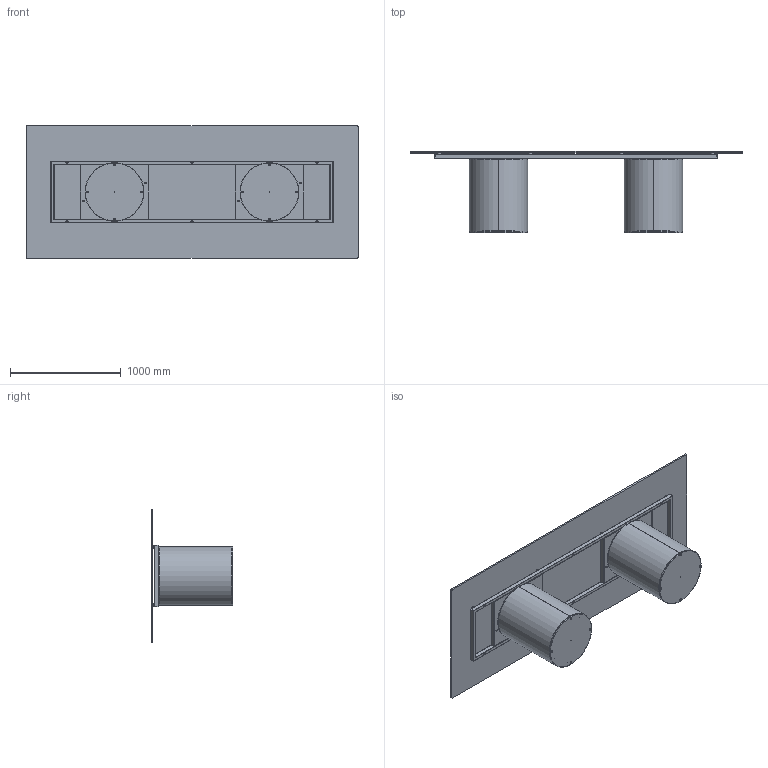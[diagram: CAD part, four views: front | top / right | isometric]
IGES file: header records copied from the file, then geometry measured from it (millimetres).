
Start section: SolidWorks IGES file using analytic representation for surfaces
Global section: file name: Y:\eforma\TECNICO\SOLIDWORKS\E-FORMA\1-TAVOLI\CILINDRO\02 parts\CI24G.IGS; native system: SolidWorks 2022; preprocessor: SolidWorks 2022; author: eforma.tech; date: 240808.090940; units: millimetre
Bounding box: 3000 x 735 x 1200 mm (x, y, z)
Volume: 68674536.8 mm3; surface area: 16400634 mm2
Topology: 38 solids, 38 shells, 974 faces, 2216 edges, 1276 vertices
Faces by surface type: revolution 528, plane 446
